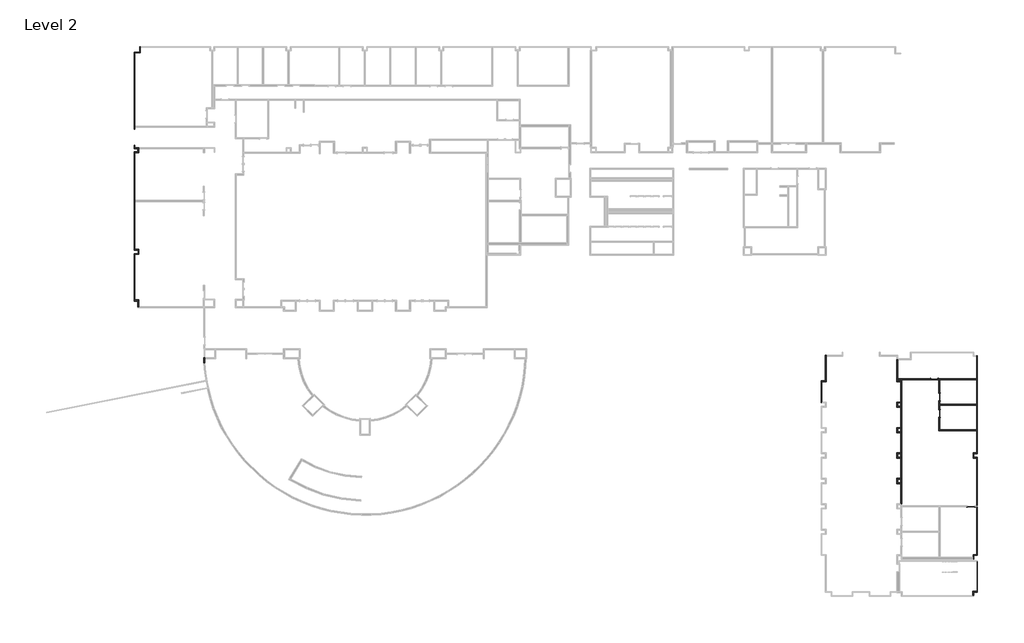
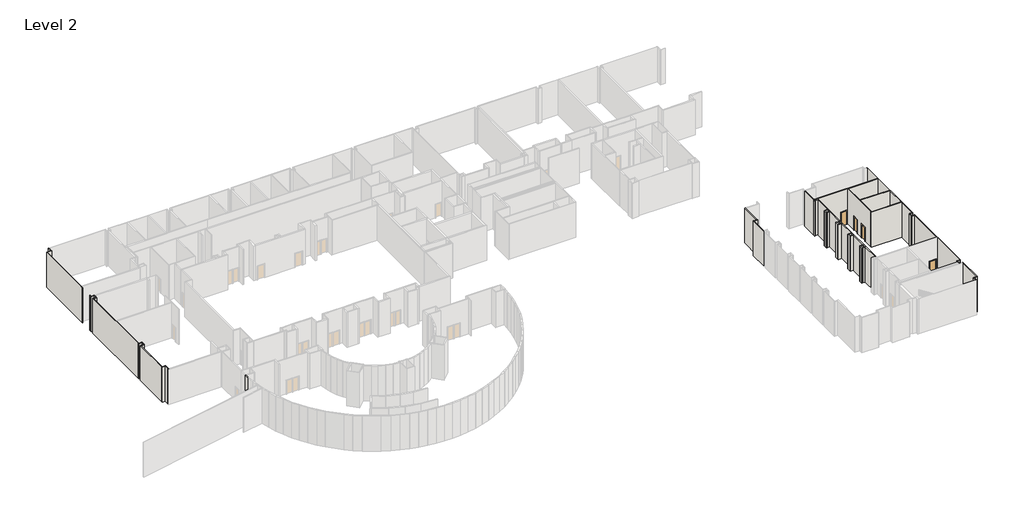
# One storey, part 3 of 9: 54 walls, 4 doors.
"""IFC4 building model written with IfcOpenShell, lengths in millimetres."""

from ifc_helpers import new_model, si_unit, frame, origin, place, context, project, spatial, polyline, outline, extrude, faceted_brep, transform, mapped, element, save
from components import door_3b0d1d25, door_7c9e1b45

model = new_model("IFC4")

# Units and contexts
model_context = context("Model", 3, world=origin())
ifc_project = project(units=[si_unit("LENGTHUNIT", "METRE", prefix="MILLI")], contexts=[model_context])

# Site, building, storey
site = spatial("IfcSite", under=ifc_project)
building = spatial("IfcBuilding", under=site)
storey = spatial("IfcBuildingStorey", under=building, Name="Level 2", Elevation=5486.4)

# Doors
placement = place(None, origin())
door_shape = door_3b0d1d25(model_context)
element("IfcDoor", 1, ObjectType="Single-Flush : 34\" x 84\"", at=placement, inside=storey, context=model_context, shape_type="MappedRepresentation", body=[
    mapped(door_shape, transform((92356.3129373, -1952.8168895, 5486.4), x_axis=(1.0, 0.0, 0.0), y_axis=(0.0, 1.0, 0.0), z_axis=(0.0, 0.0, 1.0))),
])
element("IfcDoor", 2, ObjectType="Single-Flush : 34\" x 84\"", at=placement, inside=storey, context=model_context, shape_type="MappedRepresentation", body=[
    mapped(door_shape, transform((92965.9129373, -6067.6168895, 5486.4), x_axis=(0.0, 1.0, 0.0), y_axis=(-1.0, 0.0, 0.0), z_axis=(0.0, 0.0, 1.0))),
])
element("IfcDoor", 3, ObjectType="Single-Flush : 34\" x 84\"", at=placement, inside=storey, context=model_context, shape_type="MappedRepresentation", body=[
    mapped(door_shape, transform((96752.1003458, -17192.8168895, 5486.4), x_axis=(1.0, 0.0, 0.0), y_axis=(0.0, 1.0, 0.0), z_axis=(0.0, 0.0, 1.0))),
])
door_2_shape = door_7c9e1b45(model_context)
element("IfcDoor", 4, ObjectType="Single-Flush : 34\" x 84\"", at=placement, inside=storey, context=model_context, shape_type="MappedRepresentation", body=[
    mapped(door_2_shape, transform((92965.9129373, -4086.4168895, 5486.4), x_axis=(0.0, -1.0, 0.0), y_axis=(1.0, 0.0, 0.0), z_axis=(0.0, 0.0, 1.0))),
])

# Walls
element("IfcWall", 5, ObjectType="N2A/B", at=placement, inside=storey, context=model_context, shape_type="Brep", body=[
    faceted_brep([(97437.9190091, -7986.9043895, 5486.4), (93027.8254373, -7986.9043895, 5486.4), (92904.0004373, -7986.9043895, 5486.4), (92904.0004373, -7986.9043895, 10972.8), (93027.8254373, -7986.9043895, 10972.8), (97437.9190091, -7986.9043895, 10972.8), (97437.9190091, -8110.7293895, 5486.4), (97437.9190091, -8110.7293895, 10972.8), (92904.0004373, -8110.7293895, 10972.8), (92904.0004373, -8110.7293895, 5486.4)], [[[0, 1, 2, 3, 4, 5]], [[6, 7, 8, 9]], [[2, 1, 0, 6, 9]], [[5, 4, 3, 8, 7]], [[3, 2, 9, 8]], [[0, 5, 7, 6]]]),
])
element("IfcWall", 6, ObjectType="N2A/B", at=placement, inside=storey, context=model_context, shape_type="Brep", body=[
    faceted_brep([(93027.8254373, -5635.8168895, 7620.0), (93027.8254373, -5635.8168895, 5486.4), (93027.8254373, -5062.7293895, 5486.4), (93027.8254373, -4938.9043895, 5486.4), (93027.8254373, -4518.2168895, 5486.4), (93027.8254373, -4518.2168895, 7620.0), (93027.8254373, -3654.6168895, 7620.0), (93027.8254373, -3654.6168895, 5486.4), (93027.8254373, -2014.7293895, 5486.4), (93027.8254373, -2014.7293895, 10972.8), (93027.8254373, -4938.9043895, 10972.8), (93027.8254373, -5062.7293895, 10972.8), (93027.8254373, -7986.9043895, 10972.8), (93027.8254373, -7986.9043895, 5486.4), (93027.8254373, -6499.4168895, 5486.4), (93027.8254373, -6499.4168895, 7620.0), (92904.0004373, -4518.2168895, 5486.4), (92904.0004373, -5635.8168895, 5486.4), (92904.0004373, -5635.8168895, 7620.0), (92904.0004373, -6499.4168895, 7620.0), (92904.0004373, -6499.4168895, 5486.4), (92904.0004373, -7986.9043895, 5486.4), (92904.0004373, -7986.9043895, 10972.8), (92904.0004373, -2014.7293895, 10972.8), (92904.0004373, -2014.7293895, 5486.4), (92904.0004373, -3654.6168895, 5486.4), (92904.0004373, -3654.6168895, 7620.0), (92904.0004373, -4518.2168895, 7620.0)], [[[0, 1, 2, 3, 4, 5, 6, 7, 8, 9, 10, 11, 12, 13, 14, 15]], [[16, 17, 18, 19, 20, 21, 22, 23, 24, 25, 26, 27]], [[4, 3, 2, 1, 17, 16]], [[25, 24, 8, 7]], [[14, 13, 21, 20]], [[12, 11, 10, 9, 23, 22]], [[13, 12, 22, 21]], [[9, 8, 24, 23]], [[5, 4, 16, 27]], [[6, 5, 27, 26]], [[7, 6, 26, 25]], [[18, 17, 1, 0]], [[19, 18, 0, 15]], [[20, 19, 15, 14]]]),
])
element("IfcWall", 7, ObjectType="N2A/B", at=placement, inside=storey, context=model_context, shape_type="Brep", body=[
    faceted_brep([(97437.9190091, -1890.9043895, 5486.4), (92788.1129373, -1890.9043895, 5486.4), (92788.1129373, -1890.9043895, 7620.0), (91924.5129373, -1890.9043895, 7620.0), (91924.5129373, -1890.9043895, 5486.4), (88451.0629373, -1890.9043895, 5486.4), (88451.0629373, -1890.9043895, 10972.8), (97437.9190091, -1890.9043895, 10972.8), (92788.1129373, -2014.7293895, 7620.0), (92788.1129373, -2014.7293895, 5486.4), (92904.0004373, -2014.7293895, 5486.4), (93027.8254373, -2014.7293895, 5486.4), (97437.9190091, -2014.7293895, 5486.4), (97437.9190091, -2014.7293895, 10972.8), (93027.8254373, -2014.7293895, 10972.8), (92904.0004373, -2014.7293895, 10972.8), (88451.0629373, -2014.7293895, 10972.8), (88451.0629373, -2014.7293895, 5486.4), (91924.5129373, -2014.7293895, 5486.4), (91924.5129373, -2014.7293895, 7620.0), (88451.0629373, -1898.8418895, 5486.4), (88451.0629373, -1898.8418895, 10972.8)], [[[0, 1, 2, 3, 4, 5, 6, 7]], [[8, 9, 10, 11, 12, 13, 14, 15, 16, 17, 18, 19]], [[12, 11, 10, 9, 1, 0]], [[18, 17, 20, 5, 4]], [[7, 6, 21, 16, 15, 14, 13]], [[6, 5, 20, 17, 16, 21]], [[0, 7, 13, 12]], [[2, 1, 9, 8]], [[3, 2, 8, 19]], [[4, 3, 19, 18]]]),
])
element("IfcWall", 8, ObjectType="N2A/B", at=placement, inside=storey, context=model_context, shape_type="SweptSolid", body=[
    extrude(outline(polyline([(97437.9190091, -5062.7293895), (93027.8254373, -5062.7293895), (93027.8254373, -4938.9043895), (97437.9190091, -4938.9043895), (97437.9190091, -5062.7293895)])), frame((0.0, 0.0, 5486.4), z_axis=(0.0, 0.0, 1.0), x_axis=(1.0, 0.0, 0.0)), (0.0, 0.0, 1.0), 5486.4),
])
element("IfcWall", 9, ObjectType="N2A/B", at=placement, inside=storey, context=model_context, shape_type="Brep", body=[
    faceted_brep([(87973.2254373, -1892.4918895, 5486.4), (87973.2254373, 380.8081105, 5486.4), (87973.2254373, 380.8081105, 10972.8), (87973.2254373, -1892.4918895, 10972.8), (87849.4004373, -1892.4918895, 5486.4), (87849.4004373, -1892.4918895, 10972.8), (87849.4004373, 380.8081105, 10972.8), (87849.4004373, 380.8081105, 5486.4), (87965.2879373, -1892.4918895, 5486.4), (87857.3379373, -1892.4918895, 5486.4), (87857.3379373, 380.8081105, 5486.4), (87965.2879373, 380.8081105, 5486.4), (87857.3379373, 380.8081105, 10972.8), (87965.2879373, 380.8081105, 10972.8), (87857.3379373, -1892.4918895, 10972.8), (87965.2879373, -1892.4918895, 10972.8)], [[[0, 1, 2, 3]], [[4, 5, 6, 7]], [[1, 0, 8, 9, 4, 7, 10, 11]], [[2, 1, 11, 10, 7, 6, 12, 13]], [[3, 2, 13, 12, 6, 5, 14, 15]], [[0, 3, 15, 14, 5, 4, 9, 8]]]),
])
element("IfcWall", 10, ObjectType="N2A/B", at=placement, inside=storey, context=model_context, shape_type="Brep", body=[
    faceted_brep([(88466.9379373, -10792.0168895, 5486.4), (88466.9379373, -8353.6168895, 5486.4), (88466.9379373, -8353.6168895, 10972.8), (88466.9379373, -10792.0168895, 10972.8), (88343.1129373, -10792.0168895, 5486.4), (88343.1129373, -10792.0168895, 10972.8), (88343.1129373, -8353.6168895, 10972.8), (88343.1129373, -8353.6168895, 5486.4), (88459.0004373, -10792.0168895, 5486.4), (88351.0504373, -10792.0168895, 5486.4), (88451.0629373, -8353.6168895, 5486.4), (88451.0629373, -8353.6168895, 10972.8), (88351.0504373, -10792.0168895, 10972.8), (88459.0004373, -10792.0168895, 10972.8)], [[[0, 1, 2, 3]], [[4, 5, 6, 7]], [[1, 0, 8, 9, 4, 7, 10]], [[3, 2, 11, 6, 5, 12, 13]], [[2, 1, 10, 7, 6, 11]], [[0, 3, 13, 12, 5, 4, 9, 8]]]),
])
element("IfcWall", 11, ObjectType="N2A/B", at=placement, inside=storey, context=model_context, shape_type="Brep", body=[
    faceted_brep([(88333.5879373, -11401.6168895, 5486.4), (88333.5879373, -13840.0168895, 5486.4), (88333.5879373, -13947.9668895, 5486.4), (88333.5879373, -13947.9668895, 10972.8), (88333.5879373, -13840.0168895, 10972.8), (88333.5879373, -11401.6168895, 10972.8), (88457.4129373, -11401.6168895, 5486.4), (88457.4129373, -11401.6168895, 10972.8), (88457.4129373, -13947.9668895, 10972.8), (88457.4129373, -13947.9668895, 5486.4), (88449.4754373, -13947.9668895, 5486.4), (88341.5254373, -13947.9668895, 5486.4), (88341.5254373, -13947.9668895, 10972.8), (88449.4754373, -13947.9668895, 10972.8)], [[[0, 1, 2, 3, 4, 5]], [[6, 7, 8, 9]], [[2, 1, 0, 6, 9, 10, 11]], [[5, 4, 3, 12, 13, 8, 7]], [[3, 2, 11, 10, 9, 8, 13, 12]], [[0, 5, 7, 6]]]),
])
element("IfcWall", 12, ObjectType="N2A/B", at=placement, inside=storey, context=model_context, shape_type="Brep", body=[
    faceted_brep([(88333.5879373, -14341.6668895, 5486.4), (88333.5879373, -14449.6168895, 5486.4), (88333.5879373, -16888.0168895, 5486.4), (88333.5879373, -16941.9918895, 5486.4), (88333.5879373, -16941.9918895, 10972.8), (88333.5879373, -16888.0168895, 10972.8), (88333.5879373, -14449.6168895, 10972.8), (88333.5879373, -14341.6668895, 10972.8), (88457.4129373, -14341.6668895, 5486.4), (88457.4129373, -14341.6668895, 10972.8), (88457.4129373, -16941.9918895, 10972.8), (88457.4129373, -16941.9918895, 5486.4), (88341.5254373, -14341.6668895, 5486.4), (88449.4754373, -14341.6668895, 5486.4), (88449.4754373, -16941.9918895, 5486.4), (88341.5254373, -16941.9918895, 5486.4), (88449.4754373, -16941.9918895, 10972.8), (88341.5254373, -16941.9918895, 10972.8), (88449.4754373, -14341.6668895, 10972.8), (88341.5254373, -14341.6668895, 10972.8)], [[[0, 1, 2, 3, 4, 5, 6, 7]], [[8, 9, 10, 11]], [[3, 2, 1, 0, 12, 13, 8, 11, 14, 15]], [[4, 3, 15, 14, 11, 10, 16, 17]], [[7, 6, 5, 4, 17, 16, 10, 9, 18, 19]], [[0, 7, 19, 18, 9, 8, 13, 12]]]),
])
element("IfcWall", 13, ObjectType="F1A", at=placement, inside=storey, context=model_context, shape_type="Brep", body=[
    faceted_brep([(97437.9190091, 869.7581105, 5486.4), (97437.9190091, 790.3831105, 5486.4), (97437.9190091, -1890.9043895, 5486.4), (97437.9190091, -2014.7293895, 5486.4), (97437.9190091, -4938.9043895, 5486.4), (97437.9190091, -5062.7293895, 5486.4), (97437.9190091, -7986.9043895, 5486.4), (97437.9190091, -8110.7293895, 5486.4), (97437.9190091, -10792.0168895, 5486.4), (97437.9190091, -10871.3918895, 5486.4), (97437.9190091, -10871.3918895, 10972.8), (97437.9190091, -10792.0168895, 10972.8), (97437.9190091, -8110.7293895, 10972.8), (97437.9190091, -7986.9043895, 10972.8), (97437.9190091, -5062.7293895, 10972.8), (97437.9190091, -4938.9043895, 10972.8), (97437.9190091, -2014.7293895, 10972.8), (97437.9190091, -1890.9043895, 10972.8), (97437.9190091, 790.3831105, 10972.8), (97437.9190091, 869.7581105, 10972.8), (97495.0690091, 869.7581105, 5486.4), (97495.0690091, 869.7581105, 10972.8), (97495.0690091, -10871.3918895, 10972.8), (97495.0690091, -10871.3918895, 5486.4)], [[[0, 1, 2, 3, 4, 5, 6, 7, 8, 9, 10, 11, 12, 13, 14, 15, 16, 17, 18, 19]], [[20, 21, 22, 23]], [[9, 8, 7, 6, 5, 4, 3, 2, 1, 0, 20, 23]], [[19, 18, 17, 16, 15, 14, 13, 12, 11, 10, 22, 21]], [[10, 9, 23, 22]], [[0, 19, 21, 20]]]),
])
element("IfcWall", 14, ObjectType="F1A", at=placement, inside=storey, context=model_context, shape_type="Brep", body=[
    faceted_brep([(97437.9190091, -11322.2418895, 5486.4), (97437.9190091, -11401.6168895, 5486.4), (97437.9190091, -22984.0168895, 5486.4), (97437.9190091, -23063.3918895, 5486.4), (97437.9190091, -23063.3918895, 10972.8), (97437.9190091, -22984.0168895, 10972.8), (97437.9190091, -11401.6168895, 10972.8), (97437.9190091, -11322.2418895, 10972.8), (97495.0690091, -11322.2418895, 5486.4), (97495.0690091, -11322.2418895, 10972.8), (97495.0690091, -23063.3918895, 10972.8), (97495.0690091, -23063.3918895, 5486.4)], [[[0, 1, 2, 3, 4, 5, 6, 7]], [[8, 9, 10, 11]], [[3, 2, 1, 0, 8, 11]], [[7, 6, 5, 4, 10, 9]], [[4, 3, 11, 10]], [[0, 7, 9, 8]]]),
])
element("IfcWall", 15, ObjectType="F1A", at=placement, inside=storey, context=model_context, shape_type="Brep", body=[
    faceted_brep([(78870.5190091, -4803.9668894, 5486.4), (78870.5190091, -4696.0168894, 5486.4), (78870.5190091, -2257.6168895, 5486.4), (78870.5190091, -2149.6668895, 5486.4), (78870.5190091, -2149.6668895, 10972.8), (78870.5190091, -2257.6168895, 10972.8), (78870.5190091, -4696.0168894, 10972.8), (78870.5190091, -4803.9668894, 10972.8), (78813.3690091, -4803.9668894, 5486.4), (78813.3690091, -4803.9668894, 10972.8), (78813.3690091, -2149.6668895, 10972.8), (78813.3690091, -2149.6668895, 5486.4)], [[[0, 1, 2, 3, 4, 5, 6, 7]], [[8, 9, 10, 11]], [[3, 2, 1, 0, 8, 11]], [[7, 6, 5, 4, 10, 9]], [[4, 3, 11, 10]], [[0, 7, 9, 8]]]),
])
element("IfcWall", 16, ObjectType="F1A", at=placement, inside=storey, context=model_context, shape_type="Brep", body=[
    faceted_brep([(-3425.4995627, 7534.0831105, 5486.4), (-3425.4995627, 12982.3831105, 5486.4), (-3425.4995627, 13061.7581105, 5486.4), (-3425.4995627, 13061.7581105, 10972.8), (-3425.4995627, 12982.3831105, 10972.8), (-3425.4995627, 7534.0831105, 10972.8), (-3482.6495627, 7534.0831105, 5486.4), (-3482.6495627, 7534.0831105, 10972.8), (-3482.6495627, 13061.7581105, 10972.8), (-3482.6495627, 13061.7581105, 5486.4)], [[[0, 1, 2, 3, 4, 5]], [[6, 7, 8, 9]], [[2, 1, 0, 6, 9]], [[5, 4, 3, 8, 7]], [[3, 2, 9, 8]], [[0, 5, 7, 6]]]),
])
element("IfcWall", 17, ObjectType="F1A", at=placement, inside=storey, context=model_context, shape_type="Brep", body=[
    faceted_brep([(-3425.4995627, 13591.9831105, 5486.4), (-3425.4995627, 19309.3643605, 5486.4), (-3425.4995627, 19464.9393605, 5486.4), (-3425.4995627, 25160.0956105, 5486.4), (-3425.4995627, 25283.9206105, 5486.4), (-3425.4995627, 25283.9206105, 10972.8), (-3425.4995627, 25160.0956105, 10972.8), (-3425.4995627, 19464.9393605, 10972.8), (-3425.4995627, 19309.3643605, 10972.8), (-3425.4995627, 13591.9831105, 10972.8), (-3482.6495627, 13591.9831105, 5486.4), (-3482.6495627, 13591.9831105, 10972.8), (-3482.6495627, 25283.9206105, 10972.8), (-3482.6495627, 25283.9206105, 5486.4)], [[[0, 1, 2, 3, 4, 5, 6, 7, 8, 9]], [[10, 11, 12, 13]], [[4, 3, 2, 1, 0, 10, 13]], [[9, 8, 7, 6, 5, 12, 11]], [[5, 4, 13, 12]], [[0, 9, 11, 10]]]),
])
element("IfcWall", 18, ObjectType="F1A", at=placement, inside=storey, context=model_context, shape_type="SweptSolid", body=[
    extrude(outline(polyline([(-3425.4995627, 26037.9831105), (-3425.4995627, 25798.2706105), (-3482.6495627, 25798.2706105), (-3482.6495627, 26037.9831105), (-3425.4995627, 26037.9831105)])), frame((0.0, 0.0, 5486.4), z_axis=(0.0, 0.0, 1.0), x_axis=(1.0, 0.0, 0.0)), (0.0, 0.0, 1.0), 5486.4),
])
element("IfcWall", 19, ObjectType="F1A", at=placement, inside=storey, context=model_context, shape_type="Brep", body=[
    faceted_brep([(-3425.4995627, 27968.3831105, 5486.4), (-3425.4995627, 28222.3831105, 5486.4), (-3425.4995627, 28346.2081105, 5486.4), (-3425.4995627, 37137.7831105, 5486.4), (-3425.4995627, 37217.1581105, 5486.4), (-3425.4995627, 37217.1581105, 10972.8), (-3425.4995627, 37137.7831105, 10972.8), (-3425.4995627, 28346.2081105, 10972.8), (-3425.4995627, 28222.3831105, 10972.8), (-3425.4995627, 27968.3831105, 10972.8), (-3482.6495627, 27968.3831105, 5486.4), (-3482.6495627, 27968.3831105, 10972.8), (-3482.6495627, 37217.1581105, 10972.8), (-3482.6495627, 37217.1581105, 5486.4)], [[[0, 1, 2, 3, 4, 5, 6, 7, 8, 9]], [[10, 11, 12, 13]], [[4, 3, 2, 1, 0, 10, 13]], [[9, 8, 7, 6, 5, 12, 11]], [[0, 9, 11, 10]], [[5, 4, 13, 12]]]),
])
element("IfcWall", 20, ObjectType="F1B", at=placement, inside=storey, context=model_context, shape_type="Brep", body=[
    faceted_brep([(97072.7940091, -23533.5458895, 5486.4), (97072.7940091, -23063.3918895, 5486.4), (97072.7940091, -22984.0168895, 5486.4), (97072.7940091, -22984.0168895, 10972.8), (97072.7940091, -23063.3918895, 10972.8), (97072.7940091, -23533.5458895, 10972.8), (96993.4190091, -23533.5458895, 5486.4), (96993.4190091, -23533.5458895, 10972.8), (96993.4190091, -22984.0168895, 10972.8), (96993.4190091, -22984.0168895, 5486.4)], [[[0, 1, 2, 3, 4, 5]], [[6, 7, 8, 9]], [[2, 1, 0, 6, 9]], [[5, 4, 3, 8, 7]], [[3, 2, 9, 8]], [[0, 5, 7, 6]]]),
])
element("IfcWall", 21, ObjectType="F1B", at=placement, inside=storey, context=model_context, shape_type="SweptSolid", body=[
    extrude(outline(polyline([(97437.9190091, -23063.3918895), (97072.7940091, -23063.3918895), (97072.7940091, -22984.0168895), (97437.9190091, -22984.0168895), (97437.9190091, -23063.3918895)])), frame((0.0, 0.0, 5486.4), z_axis=(0.0, 0.0, 1.0), x_axis=(1.0, 0.0, 0.0)), (0.0, 0.0, 1.0), 5486.4),
])
element("IfcWall", 22, ObjectType="F1B", at=placement, inside=storey, context=model_context, shape_type="Brep", body=[
    faceted_brep([(97437.9190091, -11322.2418895, 5486.4), (97072.7940091, -11322.2418895, 5486.4), (96993.4190091, -11322.2418895, 5486.4), (96993.4190091, -11322.2418895, 10972.8), (97072.7940091, -11322.2418895, 10972.8), (97437.9190091, -11322.2418895, 10972.8), (97437.9190091, -11401.6168895, 5486.4), (97437.9190091, -11401.6168895, 10972.8), (96993.4190091, -11401.6168895, 10972.8), (96993.4190091, -11401.6168895, 5486.4)], [[[0, 1, 2, 3, 4, 5]], [[6, 7, 8, 9]], [[2, 1, 0, 6, 9]], [[5, 4, 3, 8, 7]], [[3, 2, 9, 8]], [[0, 5, 7, 6]]]),
])
element("IfcWall", 23, ObjectType="F1B", at=placement, inside=storey, context=model_context, shape_type="Brep", body=[
    faceted_brep([(97072.7940091, -11322.2418895, 5486.4), (97072.7940091, -10871.3918895, 5486.4), (97072.7940091, -10792.0168895, 5486.4), (97072.7940091, -10792.0168895, 10972.8), (97072.7940091, -10871.3918895, 10972.8), (97072.7940091, -11322.2418895, 10972.8), (96993.4190091, -11322.2418895, 5486.4), (96993.4190091, -11322.2418895, 10972.8), (96993.4190091, -10792.0168895, 10972.8), (96993.4190091, -10792.0168895, 5486.4)], [[[0, 1, 2, 3, 4, 5]], [[6, 7, 8, 9]], [[2, 1, 0, 6, 9]], [[5, 4, 3, 8, 7]], [[3, 2, 9, 8]], [[0, 5, 7, 6]]]),
])
element("IfcWall", 24, ObjectType="F1B", at=placement, inside=storey, context=model_context, shape_type="SweptSolid", body=[
    extrude(outline(polyline([(97437.9190091, -10871.3918895), (97072.7940091, -10871.3918895), (97072.7940091, -10792.0168895), (97437.9190091, -10792.0168895), (97437.9190091, -10871.3918895)])), frame((0.0, 0.0, 5486.4), z_axis=(0.0, 0.0, 1.0), x_axis=(1.0, 0.0, 0.0)), (0.0, 0.0, 1.0), 5486.4),
])
element("IfcWall", 25, ObjectType="F1B", at=placement, inside=storey, context=model_context, shape_type="Brep", body=[
    faceted_brep([(-3425.4995627, 12982.3831105, 5486.4), (-2936.5495627, 12982.3831105, 5486.4), (-2936.5495627, 12982.3831105, 10972.8), (-3425.4995627, 12982.3831105, 10972.8), (-3425.4995627, 13061.7581105, 5486.4), (-3425.4995627, 13061.7581105, 10972.8), (-3015.9245627, 13061.7581105, 10972.8), (-2936.5495627, 13061.7581105, 10972.8), (-2936.5495627, 13061.7581105, 5486.4), (-3015.9245627, 13061.7581105, 5486.4)], [[[0, 1, 2, 3]], [[4, 5, 6, 7, 8, 9]], [[1, 0, 4, 9, 8]], [[3, 2, 7, 6, 5]], [[2, 1, 8, 7]], [[0, 3, 5, 4]]]),
])
element("IfcWall", 26, ObjectType="F1B", at=placement, inside=storey, context=model_context, shape_type="Brep", body=[
    faceted_brep([(-2936.5495627, 13061.7581105, 5486.4), (-2936.5495627, 13591.9831105, 5486.4), (-2936.5495627, 13591.9831105, 10972.8), (-2936.5495627, 13061.7581105, 10972.8), (-3015.9245627, 13061.7581105, 5486.4), (-3015.9245627, 13061.7581105, 10972.8), (-3015.9245627, 13512.6081105, 10972.8), (-3015.9245627, 13591.9831105, 10972.8), (-3015.9245627, 13591.9831105, 5486.4), (-3015.9245627, 13512.6081105, 5486.4)], [[[0, 1, 2, 3]], [[4, 5, 6, 7, 8, 9]], [[1, 0, 4, 9, 8]], [[3, 2, 7, 6, 5]], [[2, 1, 8, 7]], [[0, 3, 5, 4]]]),
])
element("IfcWall", 27, ObjectType="F1B", at=placement, inside=storey, context=model_context, shape_type="Brep", body=[
    faceted_brep([(-3015.9245627, 13591.9831105, 5486.4), (-3425.4995627, 13591.9831105, 5486.4), (-3482.6495627, 13591.9831105, 5486.4), (-3482.6495627, 13591.9831105, 10972.8), (-3425.4995627, 13591.9831105, 10972.8), (-3015.9245627, 13591.9831105, 10972.8), (-3015.9245627, 13512.6081105, 5486.4), (-3015.9245627, 13512.6081105, 10972.8), (-3482.6495627, 13512.6081105, 10972.8), (-3482.6495627, 13512.6081105, 5486.4)], [[[0, 1, 2, 3, 4, 5]], [[6, 7, 8, 9]], [[2, 1, 0, 6, 9]], [[5, 4, 3, 8, 7]], [[3, 2, 9, 8]], [[0, 5, 7, 6]]]),
])
element("IfcWall", 28, ObjectType="F1B", at=placement, inside=storey, context=model_context, shape_type="Brep", body=[
    faceted_brep([(-3425.4995627, 37137.7831105, 5486.4), (-2752.3995627, 37137.7831105, 5486.4), (-2752.3995627, 37137.7831105, 10972.8), (-3425.4995627, 37137.7831105, 10972.8), (-3425.4995627, 37217.1581105, 5486.4), (-3425.4995627, 37217.1581105, 10972.8), (-2831.7745627, 37217.1581105, 10972.8), (-2752.3995627, 37217.1581105, 10972.8), (-2752.3995627, 37217.1581105, 5486.4), (-2831.7745627, 37217.1581105, 5486.4)], [[[0, 1, 2, 3]], [[4, 5, 6, 7, 8, 9]], [[1, 0, 4, 9, 8]], [[3, 2, 7, 6, 5]], [[2, 1, 8, 7]], [[0, 3, 5, 4]]]),
])
element("IfcWall", 29, ObjectType="F1B", at=placement, inside=storey, context=model_context, shape_type="Brep", body=[
    faceted_brep([(-2752.3995627, 37217.1581105, 5486.4), (-2752.3995627, 37810.8831105, 5486.4), (-2752.3995627, 37868.0331105, 5486.4), (-2752.3995627, 37868.0331105, 10972.8), (-2752.3995627, 37810.8831105, 10972.8), (-2752.3995627, 37217.1581105, 10972.8), (-2831.7745627, 37217.1581105, 5486.4), (-2831.7745627, 37217.1581105, 10972.8), (-2831.7745627, 37868.0331105, 10972.8), (-2831.7745627, 37868.0331105, 5486.4)], [[[0, 1, 2, 3, 4, 5]], [[6, 7, 8, 9]], [[2, 1, 0, 6, 9]], [[5, 4, 3, 8, 7]], [[3, 2, 9, 8]], [[0, 5, 7, 6]]]),
])
element("IfcWall", 30, ObjectType="F1C", at=placement, inside=storey, context=model_context, shape_type="Brep", body=[
    faceted_brep([(97080.7315086, -27898.9168895, 5486.4), (97080.7315086, -27462.3543895, 5486.4), (97080.7315086, -27354.4043895, 5486.4), (97080.7315086, -27354.4043895, 10972.8), (97080.7315086, -27462.3543895, 10972.8), (97080.7315086, -27898.9168895, 10972.8), (96972.7815086, -27898.9168895, 5486.4), (96972.7815086, -27898.9168895, 10972.8), (96972.7815086, -27354.4043895, 10972.8), (96972.7815086, -27354.4043895, 5486.4)], [[[0, 1, 2, 3, 4, 5]], [[6, 7, 8, 9]], [[2, 1, 0, 6, 9]], [[5, 4, 3, 8, 7]], [[3, 2, 9, 8]], [[0, 5, 7, 6]]]),
])
element("IfcWall", 31, ObjectType="F1C", at=placement, inside=storey, context=model_context, shape_type="Brep", body=[
    faceted_brep([(97080.7315086, -27462.3543895, 5486.4), (97501.4190091, -27462.3543895, 5486.4), (97501.4190091, -27462.3543895, 10972.8), (97080.7315086, -27462.3543895, 10972.8), (97080.7315086, -27354.4043895, 5486.4), (97080.7315086, -27354.4043895, 10972.8), (97463.3190091, -27354.4043895, 10972.8), (97501.4190091, -27354.4043895, 10972.8), (97501.4190091, -27354.4043895, 5486.4), (97463.3190091, -27354.4043895, 5486.4)], [[[0, 1, 2, 3]], [[4, 5, 6, 7, 8, 9]], [[1, 0, 4, 9, 8]], [[3, 2, 7, 6, 5]], [[2, 1, 8, 7]], [[0, 3, 5, 4]]]),
])
element("IfcWall", 32, ObjectType="F1C", at=placement, inside=storey, context=model_context, shape_type="Brep", body=[
    faceted_brep([(78870.5190091, -2257.6168895, 5486.4), (79378.5190091, -2257.6168895, 5486.4), (79378.5190091, -2257.6168895, 10972.8), (78870.5190091, -2257.6168895, 10972.8), (78870.5190091, -2149.6668895, 5486.4), (78870.5190091, -2149.6668895, 10972.8), (79270.5690091, -2149.6668895, 10972.8), (79378.5190091, -2149.6668895, 10972.8), (79378.5190091, -2149.6668895, 5486.4), (79270.5690091, -2149.6668895, 5486.4)], [[[0, 1, 2, 3]], [[4, 5, 6, 7, 8, 9]], [[1, 0, 4, 9, 8]], [[3, 2, 7, 6, 5]], [[2, 1, 8, 7]], [[0, 3, 5, 4]]]),
])
element("IfcWall", 33, ObjectType="F1C", at=placement, inside=storey, context=model_context, shape_type="Brep", body=[
    faceted_brep([(79378.5190091, -2149.6668895, 5486.4), (79378.5190091, 790.3831105, 5486.4), (79378.5190091, 898.3331105, 5486.4), (79378.5190091, 898.3331105, 10972.8), (79378.5190091, 790.3831105, 10972.8), (79378.5190091, -2149.6668895, 10972.8), (79270.5690091, -2149.6668895, 5486.4), (79270.5690091, -2149.6668895, 10972.8), (79270.5690091, 898.3331105, 10972.8), (79270.5690091, 898.3331105, 5486.4)], [[[0, 1, 2, 3, 4, 5]], [[6, 7, 8, 9]], [[2, 1, 0, 6, 9]], [[5, 4, 3, 8, 7]], [[3, 2, 9, 8]], [[0, 5, 7, 6]]]),
])
element("IfcWall", 34, ObjectType="F2A", at=placement, inside=storey, context=model_context, shape_type="Brep", body=[
    faceted_brep([(87857.3379373, -1892.4918895, 5486.4), (87857.3379373, -2257.6168895, 5486.4), (87857.3379373, -2257.6168895, 10972.8), (87857.3379373, -1892.4918895, 10972.8), (87965.2879373, -1892.4918895, 5486.4), (87965.2879373, -1892.4918895, 10972.8), (87965.2879373, -1898.8418895, 10972.8), (87965.2879373, -2006.7918895, 10972.8), (87965.2879373, -2149.6668895, 10972.8), (87965.2879373, -2257.6168895, 10972.8), (87965.2879373, -2257.6168895, 5486.4), (87965.2879373, -2149.6668895, 5486.4), (87965.2879373, -2006.7918895, 5486.4), (87965.2879373, -1898.8418895, 5486.4)], [[[0, 1, 2, 3]], [[4, 5, 6, 7, 8, 9, 10, 11, 12, 13]], [[1, 0, 4, 13, 12, 11, 10]], [[3, 2, 9, 8, 7, 6, 5]], [[0, 3, 5, 4]], [[2, 1, 10, 9]]]),
])
element("IfcWall", 35, ObjectType="F2A", at=placement, inside=storey, context=model_context, shape_type="SweptSolid", body=[
    extrude(outline(polyline([(88343.1129373, -2257.6168895), (87965.2879373, -2257.6168895), (87965.2879373, -2149.6668895), (88343.1129373, -2149.6668895), (88343.1129373, -2257.6168895)])), frame((0.0, 0.0, 5486.4), z_axis=(0.0, 0.0, 1.0), x_axis=(1.0, 0.0, 0.0)), (0.0, 0.0, 1.0), 5486.4),
])
element("IfcWall", 36, ObjectType="F2A", at=placement, inside=storey, context=model_context, shape_type="Brep", body=[
    faceted_brep([(88451.0629373, -8353.6168895, 5486.4), (88451.0629373, -2014.7293895, 5486.4), (88451.0629373, -1898.8418895, 5486.4), (88451.0629373, -1898.8418895, 10972.8), (88451.0629373, -2014.7293895, 10972.8), (88451.0629373, -8353.6168895, 10972.8), (88343.1129373, -8353.6168895, 5486.4), (88343.1129373, -8353.6168895, 10972.8), (88343.1129373, -8245.6668895, 10972.8), (88343.1129373, -7851.9668895, 10972.8), (88343.1129373, -7744.0168895, 10972.8), (88343.1129373, -5305.6168895, 10972.8), (88343.1129373, -5197.6668895, 10972.8), (88343.1129373, -4803.9668895, 10972.8), (88343.1129373, -4696.0168895, 10972.8), (88343.1129373, -2257.6168895, 10972.8), (88343.1129373, -2149.6668895, 10972.8), (88343.1129373, -2006.7918895, 10972.8), (88343.1129373, -1898.8418895, 10972.8), (88343.1129373, -1898.8418895, 5486.4), (88343.1129373, -2006.7918895, 5486.4), (88343.1129373, -2149.6668895, 5486.4), (88343.1129373, -2257.6168895, 5486.4), (88343.1129373, -4696.0168895, 5486.4), (88343.1129373, -4803.9668895, 5486.4), (88343.1129373, -5197.6668895, 5486.4), (88343.1129373, -5305.6168895, 5486.4), (88343.1129373, -7744.0168895, 5486.4), (88343.1129373, -7851.9668895, 5486.4), (88343.1129373, -8245.6668895, 5486.4)], [[[0, 1, 2, 3, 4, 5]], [[6, 7, 8, 9, 10, 11, 12, 13, 14, 15, 16, 17, 18, 19, 20, 21, 22, 23, 24, 25, 26, 27, 28, 29]], [[2, 1, 0, 6, 29, 28, 27, 26, 25, 24, 23, 22, 21, 20, 19]], [[5, 4, 3, 18, 17, 16, 15, 14, 13, 12, 11, 10, 9, 8, 7]], [[3, 2, 19, 18]], [[0, 5, 7, 6]]]),
])
element("IfcWall", 37, ObjectType="F2A", at=placement, inside=storey, context=model_context, shape_type="SweptSolid", body=[
    extrude(outline(polyline([(87965.2879373, -1898.8418895), (88343.1129373, -1898.8418895), (88343.1129373, -2006.7918895), (87965.2879373, -2006.7918895), (87965.2879373, -1898.8418895)])), frame((0.0, 0.0, 5486.4), z_axis=(0.0, 0.0, 1.0), x_axis=(1.0, 0.0, 0.0)), (0.0, 0.0, 1.0), 5486.4),
])
element("IfcWall", 38, ObjectType="F2A", at=placement, inside=storey, context=model_context, shape_type="Brep", body=[
    faceted_brep([(88343.1129373, -8245.6668895, 5486.4), (87957.3504373, -8245.6668895, 5486.4), (87849.4004373, -8245.6668895, 5486.4), (87849.4004373, -8245.6668895, 10972.8), (87957.3504373, -8245.6668895, 10972.8), (88343.1129373, -8245.6668895, 10972.8), (88343.1129373, -8353.6168895, 5486.4), (88343.1129373, -8353.6168895, 10972.8), (87849.4004373, -8353.6168895, 10972.8), (87849.4004373, -8353.6168895, 5486.4)], [[[0, 1, 2, 3, 4, 5]], [[6, 7, 8, 9]], [[2, 1, 0, 6, 9]], [[5, 4, 3, 8, 7]], [[3, 2, 9, 8]], [[0, 5, 7, 6]]]),
])
element("IfcWall", 39, ObjectType="F2A", at=placement, inside=storey, context=model_context, shape_type="Brep", body=[
    faceted_brep([(87957.3504373, -8245.6668895, 5486.4), (87957.3504373, -7851.9668895, 5486.4), (87957.3504373, -7744.0168895, 5486.4), (87957.3504373, -7744.0168895, 10972.8), (87957.3504373, -7851.9668895, 10972.8), (87957.3504373, -8245.6668895, 10972.8), (87849.4004373, -8245.6668895, 5486.4), (87849.4004373, -8245.6668895, 10972.8), (87849.4004373, -7744.0168895, 10972.8), (87849.4004373, -7744.0168895, 5486.4)], [[[0, 1, 2, 3, 4, 5]], [[6, 7, 8, 9]], [[2, 1, 0, 6, 9]], [[5, 4, 3, 8, 7]], [[3, 2, 9, 8]], [[0, 5, 7, 6]]]),
])
element("IfcWall", 40, ObjectType="F2A", at=placement, inside=storey, context=model_context, shape_type="SweptSolid", body=[
    extrude(outline(polyline([(88343.1129373, -7851.9668895), (87957.3504373, -7851.9668895), (87957.3504373, -7744.0168895), (88343.1129373, -7744.0168895), (88343.1129373, -7851.9668895)])), frame((0.0, 0.0, 5486.4), z_axis=(0.0, 0.0, 1.0), x_axis=(1.0, 0.0, 0.0)), (0.0, 0.0, 1.0), 5486.4),
])
element("IfcWall", 41, ObjectType="F2A", at=placement, inside=storey, context=model_context, shape_type="Brep", body=[
    faceted_brep([(88343.1129373, -4696.0168895, 5486.4), (87849.4004373, -4696.0168895, 5486.4), (87849.4004373, -4696.0168895, 10972.8), (88343.1129373, -4696.0168895, 10972.8), (88343.1129373, -4803.9668895, 5486.4), (88343.1129373, -4803.9668895, 10972.8), (87957.3504373, -4803.9668895, 10972.8), (87849.4004373, -4803.9668895, 10972.8), (87849.4004373, -4803.9668895, 5486.4), (87957.3504373, -4803.9668895, 5486.4)], [[[0, 1, 2, 3]], [[4, 5, 6, 7, 8, 9]], [[1, 0, 4, 9, 8]], [[3, 2, 7, 6, 5]], [[2, 1, 8, 7]], [[0, 3, 5, 4]]]),
])
element("IfcWall", 42, ObjectType="F2A", at=placement, inside=storey, context=model_context, shape_type="Brep", body=[
    faceted_brep([(87849.4004373, -4803.9668895, 5486.4), (87849.4004373, -5305.6168895, 5486.4), (87849.4004373, -5305.6168895, 10972.8), (87849.4004373, -4803.9668895, 10972.8), (87957.3504373, -4803.9668895, 5486.4), (87957.3504373, -4803.9668895, 10972.8), (87957.3504373, -5197.6668895, 10972.8), (87957.3504373, -5305.6168895, 10972.8), (87957.3504373, -5305.6168895, 5486.4), (87957.3504373, -5197.6668895, 5486.4)], [[[0, 1, 2, 3]], [[4, 5, 6, 7, 8, 9]], [[1, 0, 4, 9, 8]], [[3, 2, 7, 6, 5]], [[2, 1, 8, 7]], [[0, 3, 5, 4]]]),
])
element("IfcWall", 43, ObjectType="F2A", at=placement, inside=storey, context=model_context, shape_type="SweptSolid", body=[
    extrude(outline(polyline([(88343.1129373, -5305.6168895), (87957.3504373, -5305.6168895), (87957.3504373, -5197.6668895), (88343.1129373, -5197.6668895), (88343.1129373, -5305.6168895)])), frame((0.0, 0.0, 5486.4), z_axis=(0.0, 0.0, 1.0), x_axis=(1.0, 0.0, 0.0)), (0.0, 0.0, 1.0), 5486.4),
])
element("IfcWall", 44, ObjectType="F2A", at=placement, inside=storey, context=model_context, shape_type="Brep", body=[
    faceted_brep([(87849.4004373, -11401.6168895, 5486.4), (88333.5879373, -11401.6168895, 5486.4), (88457.4129373, -11401.6168895, 5486.4), (88459.0004373, -11401.6168895, 5486.4), (88459.0004373, -11401.6168895, 10972.8), (88457.4129373, -11401.6168895, 10972.8), (88333.5879373, -11401.6168895, 10972.8), (87849.4004373, -11401.6168895, 10972.8), (87849.4004373, -11293.6668895, 5486.4), (87849.4004373, -11293.6668895, 10972.8), (87957.3504373, -11293.6668895, 10972.8), (88351.0504373, -11293.6668895, 10972.8), (88459.0004373, -11293.6668895, 10972.8), (88459.0004373, -11293.6668895, 5486.4), (88351.0504373, -11293.6668895, 5486.4), (87957.3504373, -11293.6668895, 5486.4)], [[[0, 1, 2, 3, 4, 5, 6, 7]], [[8, 9, 10, 11, 12, 13, 14, 15]], [[3, 2, 1, 0, 8, 15, 14, 13]], [[7, 6, 5, 4, 12, 11, 10, 9]], [[4, 3, 13, 12]], [[0, 7, 9, 8]]]),
])
element("IfcWall", 45, ObjectType="F2A", at=placement, inside=storey, context=model_context, shape_type="Brep", body=[
    faceted_brep([(88459.0004373, -11293.6668895, 5486.4), (88459.0004373, -10792.0168895, 5486.4), (88459.0004373, -10792.0168895, 10972.8), (88459.0004373, -11293.6668895, 10972.8), (88351.0504373, -11293.6668895, 5486.4), (88351.0504373, -11293.6668895, 10972.8), (88351.0504373, -10899.9668895, 10972.8), (88351.0504373, -10792.0168895, 10972.8), (88351.0504373, -10792.0168895, 5486.4), (88351.0504373, -10899.9668895, 5486.4)], [[[0, 1, 2, 3]], [[4, 5, 6, 7, 8, 9]], [[1, 0, 4, 9, 8]], [[3, 2, 7, 6, 5]], [[2, 1, 8, 7]], [[0, 3, 5, 4]]]),
])
element("IfcWall", 46, ObjectType="F2A", at=placement, inside=storey, context=model_context, shape_type="Brep", body=[
    faceted_brep([(88351.0504373, -10792.0168895, 5486.4), (88343.1129373, -10792.0168895, 5486.4), (87849.4004373, -10792.0168895, 5486.4), (87849.4004373, -10792.0168895, 10972.8), (88343.1129373, -10792.0168895, 10972.8), (88351.0504373, -10792.0168895, 10972.8), (88351.0504373, -10899.9668895, 5486.4), (88351.0504373, -10899.9668895, 10972.8), (87957.3504373, -10899.9668895, 10972.8), (87849.4004373, -10899.9668895, 10972.8), (87849.4004373, -10899.9668895, 5486.4), (87957.3504373, -10899.9668895, 5486.4)], [[[0, 1, 2, 3, 4, 5]], [[6, 7, 8, 9, 10, 11]], [[2, 1, 0, 6, 11, 10]], [[5, 4, 3, 9, 8, 7]], [[3, 2, 10, 9]], [[0, 5, 7, 6]]]),
])
element("IfcWall", 47, ObjectType="F2A", at=placement, inside=storey, context=model_context, shape_type="SweptSolid", body=[
    extrude(outline(polyline([(87849.4004373, -11293.6668895), (87849.4004373, -10899.9668895), (87957.3504373, -10899.9668895), (87957.3504373, -11293.6668895), (87849.4004373, -11293.6668895)])), frame((0.0, 0.0, 5486.4), z_axis=(0.0, 0.0, 1.0), x_axis=(1.0, 0.0, 0.0)), (0.0, 0.0, 1.0), 5486.4),
])
element("IfcWall", 48, ObjectType="F2A", at=placement, inside=storey, context=model_context, shape_type="Brep", body=[
    faceted_brep([(88333.5879373, -13840.0168895, 5486.4), (87849.4004373, -13840.0168895, 5486.4), (87849.4004373, -13840.0168895, 10972.8), (88333.5879373, -13840.0168895, 10972.8), (88333.5879373, -13947.9668895, 5486.4), (88333.5879373, -13947.9668895, 10972.8), (87957.3504373, -13947.9668895, 10972.8), (87849.4004373, -13947.9668895, 10972.8), (87849.4004373, -13947.9668895, 5486.4), (87957.3504373, -13947.9668895, 5486.4)], [[[0, 1, 2, 3]], [[4, 5, 6, 7, 8, 9]], [[1, 0, 4, 9, 8]], [[3, 2, 7, 6, 5]], [[2, 1, 8, 7]], [[0, 3, 5, 4]]]),
])
element("IfcWall", 49, ObjectType="F2A", at=placement, inside=storey, context=model_context, shape_type="Brep", body=[
    faceted_brep([(87849.4004373, -13947.9668895, 5486.4), (87849.4004373, -14449.6168895, 5486.4), (87849.4004373, -14449.6168895, 10972.8), (87849.4004373, -13947.9668895, 10972.8), (87957.3504373, -13947.9668895, 5486.4), (87957.3504373, -13947.9668895, 10972.8), (87957.3504373, -14341.6668895, 10972.8), (87957.3504373, -14449.6168895, 10972.8), (87957.3504373, -14449.6168895, 5486.4), (87957.3504373, -14341.6668895, 5486.4)], [[[0, 1, 2, 3]], [[4, 5, 6, 7, 8, 9]], [[1, 0, 4, 9, 8]], [[3, 2, 7, 6, 5]], [[2, 1, 8, 7]], [[0, 3, 5, 4]]]),
])
element("IfcWall", 50, ObjectType="F2A", at=placement, inside=storey, context=model_context, shape_type="SweptSolid", body=[
    extrude(outline(polyline([(88333.5879373, -14449.6168895), (87957.3504373, -14449.6168895), (87957.3504373, -14341.6668895), (88333.5879373, -14341.6668895), (88333.5879373, -14449.6168895)])), frame((0.0, 0.0, 5486.4), z_axis=(0.0, 0.0, 1.0), x_axis=(1.0, 0.0, 0.0)), (0.0, 0.0, 1.0), 5486.4),
])
element("IfcWall", 51, ObjectType="F2A", at=placement, inside=storey, context=model_context, shape_type="SweptSolid", body=[
    extrude(outline(polyline([(88449.4754373, -13947.9668895), (88449.4754373, -14341.6668895), (88341.5254373, -14341.6668895), (88341.5254373, -13947.9668895), (88449.4754373, -13947.9668895)])), frame((0.0, 0.0, 5486.4), z_axis=(0.0, 0.0, 1.0), x_axis=(1.0, 0.0, 0.0)), (0.0, 0.0, 1.0), 5486.4),
])
element("IfcWall", 52, ObjectType="F4A", at=placement, inside=storey, context=model_context, shape_type="Brep", body=[
    faceted_brep([(-2936.5495627, 6737.1581105, 5486.4), (-2936.5495627, 7534.0831105, 5486.4), (-2936.5495627, 7534.0831105, 10972.8), (-2936.5495627, 6737.1581105, 10972.8), (-3060.3745627, 6737.1581105, 5486.4), (-3060.3745627, 6737.1581105, 10972.8), (-3060.3745627, 7410.2581105, 10972.8), (-3060.3745627, 7534.0831105, 10972.8), (-3060.3745627, 7534.0831105, 5486.4), (-3060.3745627, 7410.2581105, 5486.4)], [[[0, 1, 2, 3]], [[4, 5, 6, 7, 8, 9]], [[1, 0, 4, 9, 8]], [[3, 2, 7, 6, 5]], [[2, 1, 8, 7]], [[0, 3, 5, 4]]]),
])
element("IfcWall", 53, ObjectType="F4A", at=placement, inside=storey, context=model_context, shape_type="Brep", body=[
    faceted_brep([(-3060.3745627, 7534.0831105, 5486.4), (-3425.4995627, 7534.0831105, 5486.4), (-3482.6495627, 7534.0831105, 5486.4), (-3482.6495627, 7534.0831105, 10972.8), (-3425.4995627, 7534.0831105, 10972.8), (-3060.3745627, 7534.0831105, 10972.8), (-3060.3745627, 7410.2581105, 5486.4), (-3060.3745627, 7410.2581105, 10972.8), (-3482.6495627, 7410.2581105, 10972.8), (-3482.6495627, 7410.2581105, 5486.4)], [[[0, 1, 2, 3, 4, 5]], [[6, 7, 8, 9]], [[2, 1, 0, 6, 9]], [[5, 4, 3, 8, 7]], [[3, 2, 9, 8]], [[0, 5, 7, 6]]]),
])
element("IfcWall", 54, ObjectType="F4A", at=placement, inside=storey, context=model_context, shape_type="Brep", body=[
    faceted_brep([(-3425.4995627, 25160.0956105, 5486.4), (-2966.7120627, 25160.0956105, 5486.4), (-2966.7120627, 25160.0956105, 10972.8), (-3425.4995627, 25160.0956105, 10972.8), (-3425.4995627, 25283.9206105, 5486.4), (-3425.4995627, 25283.9206105, 10972.8), (-3090.5370627, 25283.9206105, 10972.8), (-2966.7120627, 25283.9206105, 10972.8), (-2966.7120627, 25283.9206105, 5486.4), (-3090.5370627, 25283.9206105, 5486.4)], [[[0, 1, 2, 3]], [[4, 5, 6, 7, 8, 9]], [[1, 0, 4, 9, 8]], [[3, 2, 7, 6, 5]], [[2, 1, 8, 7]], [[0, 3, 5, 4]]]),
])
element("IfcWall", 55, ObjectType="F4A", at=placement, inside=storey, context=model_context, shape_type="Brep", body=[
    faceted_brep([(-2966.7120627, 25283.9206105, 5486.4), (-2966.7120627, 25633.1706105, 5486.4), (-2966.7120627, 25788.7456105, 5486.4), (-2966.7120627, 25798.2706105, 5486.4), (-2966.7120627, 25798.2706105, 10972.8), (-2966.7120627, 25788.7456105, 10972.8), (-2966.7120627, 25633.1706105, 10972.8), (-2966.7120627, 25283.9206105, 10972.8), (-3090.5370627, 25283.9206105, 5486.4), (-3090.5370627, 25283.9206105, 10972.8), (-3090.5370627, 25674.4456105, 10972.8), (-3090.5370627, 25798.2706105, 10972.8), (-3090.5370627, 25798.2706105, 5486.4), (-3090.5370627, 25674.4456105, 5486.4)], [[[0, 1, 2, 3, 4, 5, 6, 7]], [[8, 9, 10, 11, 12, 13]], [[3, 2, 1, 0, 8, 13, 12]], [[7, 6, 5, 4, 11, 10, 9]], [[4, 3, 12, 11]], [[0, 7, 9, 8]]]),
])
element("IfcWall", 56, ObjectType="F4A", at=placement, inside=storey, context=model_context, shape_type="Brep", body=[
    faceted_brep([(-3090.5370627, 25798.2706105, 5486.4), (-3425.4995627, 25798.2706105, 5486.4), (-3482.6495627, 25798.2706105, 5486.4), (-3482.6495627, 25798.2706105, 10972.8), (-3425.4995627, 25798.2706105, 10972.8), (-3090.5370627, 25798.2706105, 10972.8), (-3090.5370627, 25674.4456105, 5486.4), (-3090.5370627, 25674.4456105, 10972.8), (-3482.6495627, 25674.4456105, 10972.8), (-3482.6495627, 25674.4456105, 5486.4)], [[[0, 1, 2, 3, 4, 5]], [[6, 7, 8, 9]], [[2, 1, 0, 6, 9]], [[5, 4, 3, 8, 7]], [[3, 2, 9, 8]], [[0, 5, 7, 6]]]),
])
element("IfcWall", 57, ObjectType="F6A", at=placement, inside=storey, context=model_context, shape_type="Brep", body=[
    faceted_brep([(97501.4190091, -27354.4043895, 5486.4), (97501.4190091, -23708.4248895, 5486.4), (97501.4190091, -23708.4248895, 10972.8), (97501.4190091, -27354.4043895, 10972.8), (97463.3190091, -27354.4043895, 5486.4), (97463.3190091, -27354.4043895, 10972.8), (97463.3190091, -23746.5248895, 10972.8), (97463.3190091, -23708.4248895, 10972.8), (97463.3190091, -23708.4248895, 5486.4), (97463.3190091, -23746.5248895, 5486.4)], [[[0, 1, 2, 3]], [[4, 5, 6, 7, 8, 9]], [[1, 0, 4, 9, 8]], [[3, 2, 7, 6, 5]], [[2, 1, 8, 7]], [[0, 3, 5, 4]]]),
])
element("IfcWall", 58, ObjectType="N1A", at=placement, inside=storey, context=model_context, shape_type="Brep", body=[
    faceted_brep([(4866.2224579, 593.5332269, 5486.4), (4866.2224579, -47.8864697, 5486.4), (4866.2224579, -47.8864697, 10972.8), (4866.2224579, 593.5332269, 10972.8), (4990.0474579, 593.5332269, 5486.4), (4990.0474579, 593.5332269, 10972.8), (4990.0474579, 485.5832269, 10972.8), (4990.0474579, -41.3970764, 10972.8), (4990.0474579, -41.3970764, 5486.4), (4990.0474579, 485.5832269, 5486.4), (4874.1599579, 593.5332269, 5486.4), (4982.1099579, 593.5332269, 5486.4), (4982.1099579, 593.5332269, 10972.8), (4874.1599579, 593.5332269, 10972.8)], [[[0, 1, 2, 3]], [[4, 5, 6, 7, 8, 9]], [[1, 0, 10, 11, 4, 9, 8]], [[3, 2, 7, 6, 5, 12, 13]], [[2, 1, 8, 7]], [[0, 3, 13, 12, 5, 4, 11, 10]]]),
])

save(model, "model.ifc")
